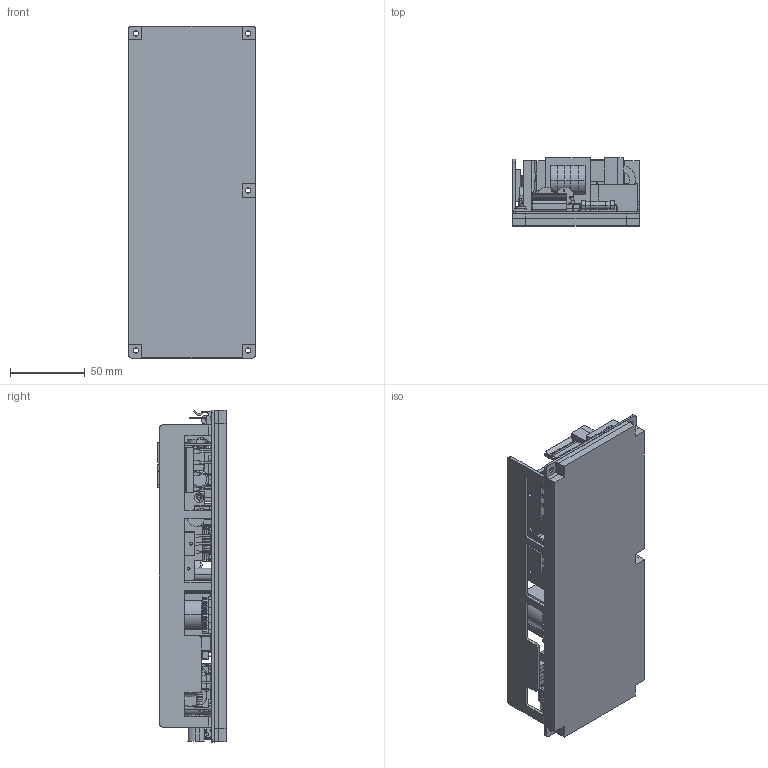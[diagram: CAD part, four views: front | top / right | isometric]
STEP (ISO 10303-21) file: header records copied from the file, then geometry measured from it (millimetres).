
FILE_DESCRIPTION (( 'STEP AP214' ), '1' );
FILE_NAME ('ZWD150PAF_OUTLINE.STEP', '2007-03-13T01:25:00', ( ' ' ), ( ' ' ), 'SwSTEP 2.0', 'SolidWorks 2007', '' );
FILE_SCHEMA (( 'AUTOMOTIVE_DESIGN' ));
Length unit declared in the file: millimetre
Products named in the file (1): ZWD150PAF_OUTLINE
Bounding box: 85 x 45.6 x 222 mm (x, y, z)
Volume: 353159.3 mm3; surface area: 182974.3 mm2
Topology: 3 solids, 6 shells, 2815 faces, 7612 edges, 4912 vertices
Faces by surface type: plane 1417, cylinder 1249, bspline 143, cone 6
Entity records: 123918 total; most frequent: CARTESIAN_POINT 20455, DIRECTION 15279, ORIENTED_EDGE 15208, EDGE_CURVE 7604, AXIS2_PLACEMENT_3D 5302, VERTEX_POINT 4912, VECTOR 4675, LINE 4675
